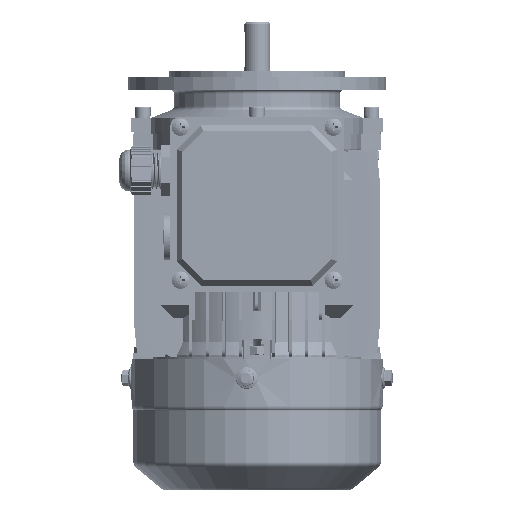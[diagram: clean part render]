
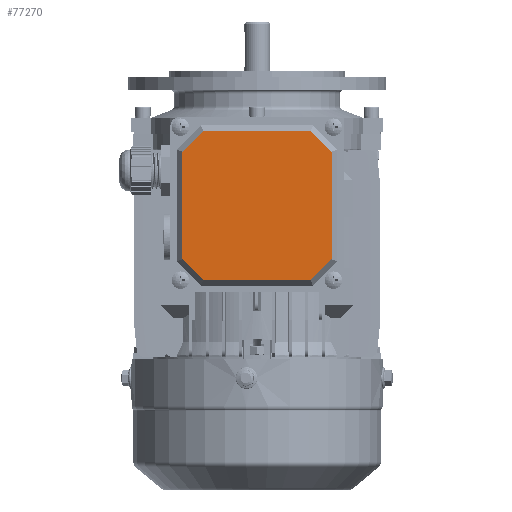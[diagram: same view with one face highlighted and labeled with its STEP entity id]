
A CAD part, left-side view. The second image highlights one B-rep face of the part: STEP entity #77270.
In plain terms, the highlighted planar face has unit normal (-1, 0, 0) as drawn and (0, 1, 0) by its records, which use the part's own axes.
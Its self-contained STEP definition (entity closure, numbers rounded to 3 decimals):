
#1628 = VECTOR ( 'NONE', #50918, 1000. ) ;
#2715 = FACE_OUTER_BOUND ( 'NONE', #35534, .T. ) ;
#3077 = VECTOR ( 'NONE', #47879, 1000. ) ;
#3088 = DIRECTION ( 'NONE',  ( 0.707, 0., -0.707 ) ) ;
#3417 = LINE ( 'NONE', #76311, #78441 ) ;
#4015 = ORIENTED_EDGE ( 'NONE', *, *, #75161, .T. ) ;
#4908 = ORIENTED_EDGE ( 'NONE', *, *, #99143, .T. ) ;
#5185 = DIRECTION ( 'NONE',  ( -1., 0., 0. ) ) ;
#5266 = PLANE ( 'NONE',  #34007 ) ;
#6650 = VECTOR ( 'NONE', #3088, 1000. ) ;
#10456 = EDGE_CURVE ( 'NONE', #65842, #102383, #58500, .T. ) ;
#15061 = DIRECTION ( 'NONE',  ( 0., 0., -1. ) ) ;
#16526 = ORIENTED_EDGE ( 'NONE', *, *, #43723, .T. ) ;
#18349 = CARTESIAN_POINT ( 'NONE',  ( 34.825, 6., -34.825 ) ) ;
#19184 = CARTESIAN_POINT ( 'NONE',  ( 40.5, 6., -29.15 ) ) ;
#23360 = CARTESIAN_POINT ( 'NONE',  ( 29.15, 6., 40.5 ) ) ;
#25482 = LINE ( 'NONE', #115236, #77567 ) ;
#26855 = VERTEX_POINT ( 'NONE', #95253 ) ;
#27663 = LINE ( 'NONE', #70633, #1628 ) ;
#29447 = VECTOR ( 'NONE', #5185, 1000. ) ;
#32149 = LINE ( 'NONE', #18349, #3077 ) ;
#32309 = CARTESIAN_POINT ( 'NONE',  ( 0., 6., 40.5 ) ) ;
#34007 = AXIS2_PLACEMENT_3D ( 'NONE', #34314, #73709, #15061 ) ;
#34230 = CARTESIAN_POINT ( 'NONE',  ( 0., 6., -40.5 ) ) ;
#34314 = CARTESIAN_POINT ( 'NONE',  ( 0., 6., 0. ) ) ;
#35534 = EDGE_LOOP ( 'NONE', ( #86138, #55528, #4908, #124161, #16526, #42560, #120472, #4015 ) ) ;
#41162 = VECTOR ( 'NONE', #91035, 1000. ) ;
#42560 = ORIENTED_EDGE ( 'NONE', *, *, #52603, .T. ) ;
#43338 = CARTESIAN_POINT ( 'NONE',  ( 29.15, 6., -40.5 ) ) ;
#43723 = EDGE_CURVE ( 'NONE', #102383, #44882, #76148, .T. ) ;
#44882 = VERTEX_POINT ( 'NONE', #119878 ) ;
#47341 = LINE ( 'NONE', #32309, #41162 ) ;
#47606 = CARTESIAN_POINT ( 'NONE',  ( -34.825, 6., -34.825 ) ) ;
#47879 = DIRECTION ( 'NONE',  ( -0.707, 0., -0.707 ) ) ;
#50918 = DIRECTION ( 'NONE',  ( 0., 0., -1. ) ) ;
#52603 = EDGE_CURVE ( 'NONE', #44882, #26855, #25482, .T. ) ;
#55528 = ORIENTED_EDGE ( 'NONE', *, *, #105136, .T. ) ;
#57260 = CARTESIAN_POINT ( 'NONE',  ( 40.5, 6., 29.15 ) ) ;
#58500 = LINE ( 'NONE', #34230, #29447 ) ;
#65842 = VERTEX_POINT ( 'NONE', #43338 ) ;
#66393 = DIRECTION ( 'NONE',  ( 0., 0., 1. ) ) ;
#67131 = CARTESIAN_POINT ( 'NONE',  ( -29.15, 6., 40.5 ) ) ;
#70633 = CARTESIAN_POINT ( 'NONE',  ( 40.5, 6., 0. ) ) ;
#71937 = CARTESIAN_POINT ( 'NONE',  ( 34.825, 6., 34.825 ) ) ;
#72845 = EDGE_CURVE ( 'NONE', #26855, #92001, #3417, .T. ) ;
#73709 = DIRECTION ( 'NONE',  ( 0., -1., 0. ) ) ;
#75161 = EDGE_CURVE ( 'NONE', #92001, #79674, #47341, .T. ) ;
#76148 = LINE ( 'NONE', #47606, #99173 ) ;
#76311 = CARTESIAN_POINT ( 'NONE',  ( -34.825, 6., 34.825 ) ) ;
#77270 = ADVANCED_FACE ( 'NONE', ( #2715 ), #5266, .F. ) ;
#77567 = VECTOR ( 'NONE', #66393, 1000. ) ;
#78441 = VECTOR ( 'NONE', #96039, 1000. ) ;
#79674 = VERTEX_POINT ( 'NONE', #23360 ) ;
#81673 = LINE ( 'NONE', #71937, #6650 ) ;
#86138 = ORIENTED_EDGE ( 'NONE', *, *, #102858, .T. ) ;
#91035 = DIRECTION ( 'NONE',  ( 1., 0., 0. ) ) ;
#92001 = VERTEX_POINT ( 'NONE', #67131 ) ;
#95253 = CARTESIAN_POINT ( 'NONE',  ( -40.5, 6., 29.15 ) ) ;
#96039 = DIRECTION ( 'NONE',  ( 0.707, 0., 0.707 ) ) ;
#96067 = DIRECTION ( 'NONE',  ( -0.707, 0., 0.707 ) ) ;
#96291 = VERTEX_POINT ( 'NONE', #19184 ) ;
#99143 = EDGE_CURVE ( 'NONE', #96291, #65842, #32149, .T. ) ;
#99173 = VECTOR ( 'NONE', #96067, 1000. ) ;
#102383 = VERTEX_POINT ( 'NONE', #120475 ) ;
#102858 = EDGE_CURVE ( 'NONE', #79674, #117177, #81673, .T. ) ;
#105136 = EDGE_CURVE ( 'NONE', #117177, #96291, #27663, .T. ) ;
#115236 = CARTESIAN_POINT ( 'NONE',  ( -40.5, 6., 0. ) ) ;
#117177 = VERTEX_POINT ( 'NONE', #57260 ) ;
#119878 = CARTESIAN_POINT ( 'NONE',  ( -40.5, 6., -29.15 ) ) ;
#120472 = ORIENTED_EDGE ( 'NONE', *, *, #72845, .T. ) ;
#120475 = CARTESIAN_POINT ( 'NONE',  ( -29.15, 6., -40.5 ) ) ;
#124161 = ORIENTED_EDGE ( 'NONE', *, *, #10456, .T. ) ;
